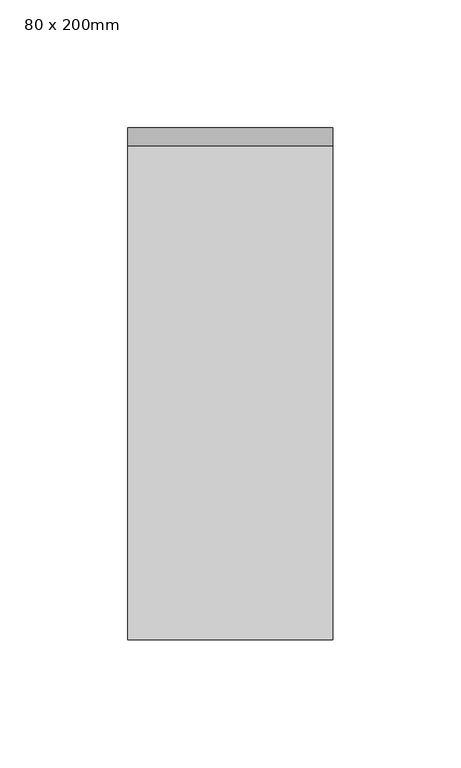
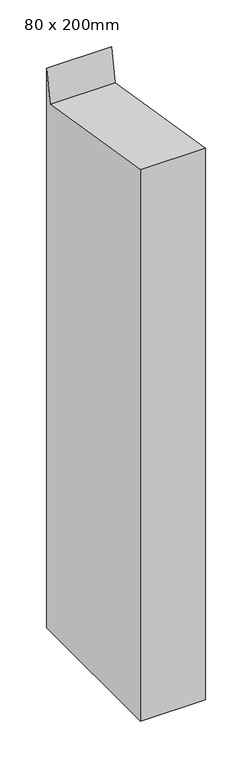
"""IFC4 building model written with IfcOpenShell, lengths in millimetres: member geometry, 矩形竖梃 : 80 x 200mm."""

from ifc_helpers import new_model, si_unit, frame, origin, place, context, project, spatial, polyline, outline, extrude, source, transform, mapped, element, save


def member_80_x_200mm_3bc3efc9(model_context):
    return source(origin(), model_context, "Body", "SweptSolid", [
        extrude(outline(polyline([(-100.0, 16.0168184), (92.973187, -15.8034103), (100.0, 26.8105668), (100.0, -701.8964251), (-100.0, -701.8964251), (-100.0, 16.0168184)])), frame((-80.0, 0.0, 0.0), z_axis=(1.0, 0.0, 0.0), x_axis=(0.0, 1.0, 0.0)), (0.0, 0.0, 1.0), 80.0),
    ])


if __name__ == "__main__":
    model = new_model("IFC4")
    model_context = context("Model", 3, world=origin())
    ifc_project = project(units=[si_unit("LENGTHUNIT", "METRE", prefix="MILLI")], contexts=[model_context])
    site = spatial("IfcSite", under=ifc_project)
    building = spatial("IfcBuilding", under=site)
    placement = place(None, origin())
    member_80_x_200mm_shape = member_80_x_200mm_3bc3efc9(model_context)
    element("IfcMember", 1, ObjectType="矩形竖梃 : 80 x 200mm", at=placement, inside=building, context=model_context, shape_type="MappedRepresentation", body=[
        mapped(member_80_x_200mm_shape, transform((0.0, 0.0, 0.0), x_axis=(1.0, 0.0, 0.0), y_axis=(0.0, 1.0, 0.0), z_axis=(0.0, 0.0, 1.0))),
    ])
    save(model, "model.ifc")
